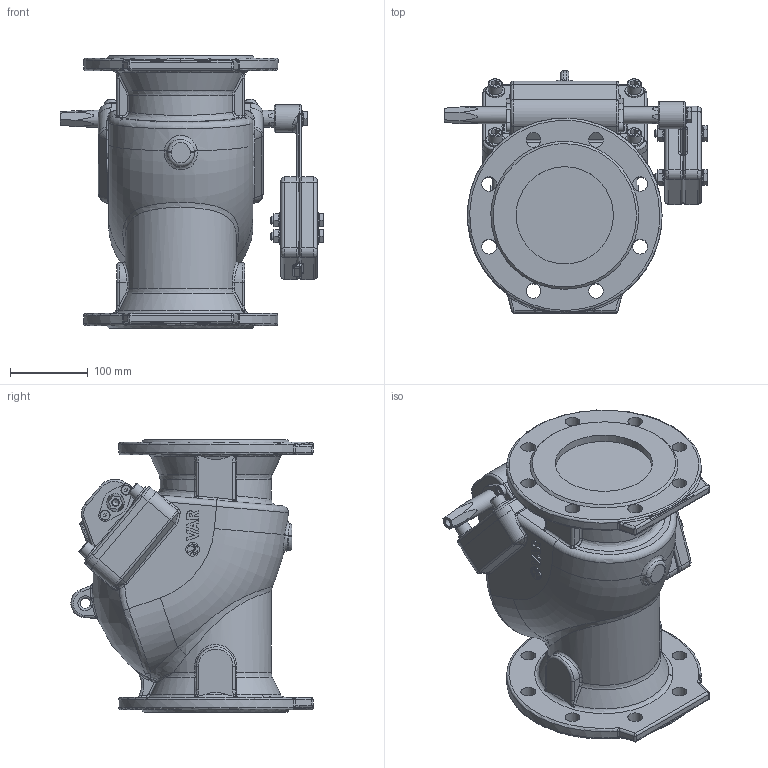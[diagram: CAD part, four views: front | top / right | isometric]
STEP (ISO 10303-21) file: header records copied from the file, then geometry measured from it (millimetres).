
FILE_DESCRIPTION(('STEP AP203'), '1');
FILE_NAME('VAR LIMU-STOP Îáðàòíûé êëàïàí DN 125 PN 16 c ðû÷àãîì è ïðîòèâîâåñîì', '2026-06-28T08:29:19', (' '), (' '), 'C3D Converter', 'C3D Toolkit', '');
FILE_SCHEMA(('CONFIG_CONTROL_DESIGN'));
Length unit declared in the file: millimetre
Products named in the file (1): Admi0C102497dldp
Bounding box: 338.9 x 311.1 x 350 mm (x, y, z)
Volume: 12040920.7 mm3; surface area: 535561.2 mm2
Topology: 1 solids, 15 shells, 1115 faces, 2859 edges, 1793 vertices
Faces by surface type: plane 393, cylinder 250, bspline 179, extrusion 130, torus 85, cone 58, sphere 20
Full cylindrical faces by diameter (mm): 6 x4, 6.5 x4, 8.5 x2, 10 x11, 10.5 x5, 12 x8, 13 x5, 15.6 x3, 17.727 x1, 18 x4, 19 x16, 20 x5, 22 x2, 23 x2, 24 x4, 30 x1, 35 x1, 125 x2
Entity records: 74331 total; most frequent: CARTESIAN_POINT 41879, ORIENTED_EDGE 5372, DIRECTION 4100, EDGE_CURVE 2686, VERTEX_POINT 1775, AXIS2_PLACEMENT_3D 1491, EDGE_LOOP 1355, FACE_BOUND 1308
